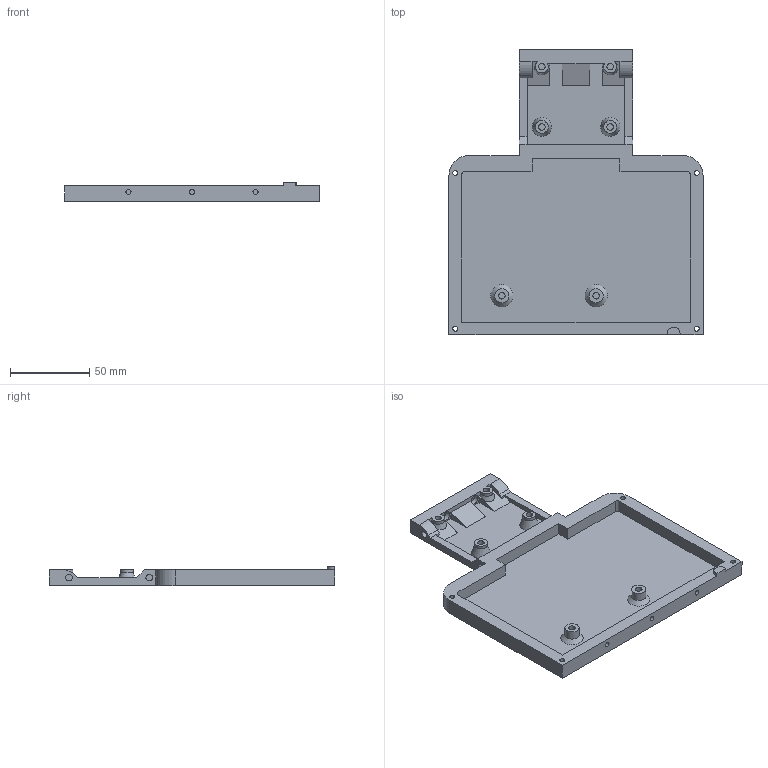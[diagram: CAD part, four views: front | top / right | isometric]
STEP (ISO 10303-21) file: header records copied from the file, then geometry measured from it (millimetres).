
FILE_DESCRIPTION(/* description */ (''),/* implementation_level */ '2;1');
FILE_NAME(/* name */ '1-01-1 Bottom rear.step',/* time_stamp */ '2025-05-10T21:33:17+02:00',/* author */ (''),/* organization */ (''),/* preprocessor_version */ 'ST-DEVELOPER v20.1',/* originating_system */ 'Autodesk Translation Framework v14.4.0.0',/* authorisation */ '');
FILE_SCHEMA (('AUTOMOTIVE_DESIGN { 1 0 10303 214 3 1 1 }'));
Length unit declared in the file: millimetre
Products named in the file (1): 1-01-1 Bottom rear
Bounding box: 160 x 179.9 x 12 mm (x, y, z)
Volume: 87759.4 mm3; surface area: 60031.1 mm2
Topology: 1 solids, 1 shells, 139 faces, 336 edges, 219 vertices
Faces by surface type: plane 88, cylinder 41, cone 10
Full cylindrical faces by diameter (mm): 3.2 x9, 4.1 x10, 6 x6, 8 x2, 9 x2
Entity records: 4111 total; most frequent: CARTESIAN_POINT 703, DIRECTION 701, ORIENTED_EDGE 672, EDGE_CURVE 336, LINE 243, VECTOR 243, AXIS2_PLACEMENT_3D 229, VERTEX_POINT 219
